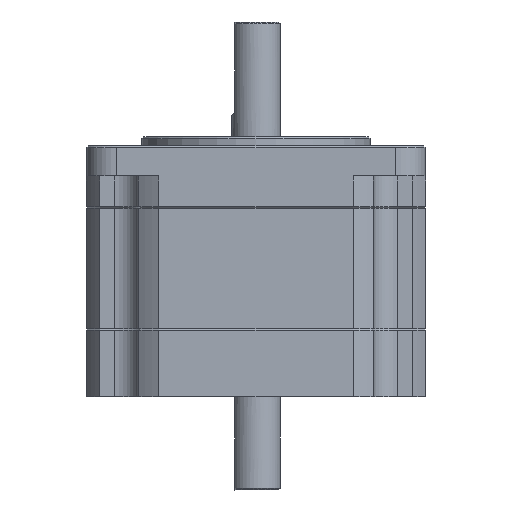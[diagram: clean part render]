
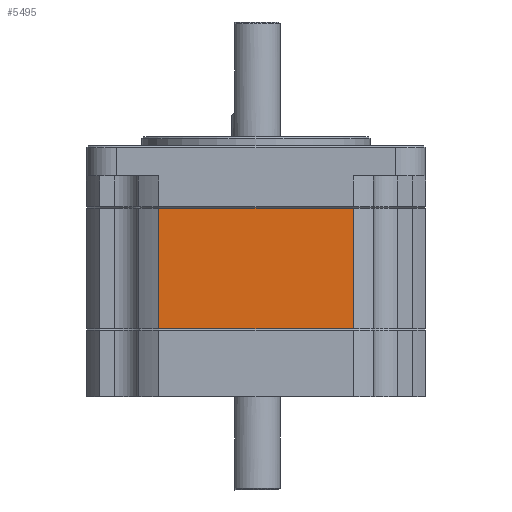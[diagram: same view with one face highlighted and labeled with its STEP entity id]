
A CAD part, front view. The second image highlights one B-rep face of the part: STEP entity #5495.
In plain terms, the highlighted planar face has unit normal (0, -1, 0).
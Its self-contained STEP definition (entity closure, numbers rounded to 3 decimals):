
#30 = DIRECTION ( 'NONE',  ( 0., 0., -1. ) ) ;
#92 = CARTESIAN_POINT ( 'NONE',  ( 0., -28.2, -20. ) ) ;
#334 = CARTESIAN_POINT ( 'NONE',  ( -16.156, -28.2, 0. ) ) ;
#627 = CARTESIAN_POINT ( 'NONE',  ( 16.156, -28.2, 0. ) ) ;
#748 = CARTESIAN_POINT ( 'NONE',  ( -16.156, -28.2, 0. ) ) ;
#1687 = CARTESIAN_POINT ( 'NONE',  ( -16.156, -28.2, -20. ) ) ;
#3635 = VERTEX_POINT ( 'NONE', #5469 ) ;
#4440 = VECTOR ( 'NONE', #7018, 1000. ) ;
#4473 = LINE ( 'NONE', #92, #10715 ) ;
#4530 = EDGE_LOOP ( 'NONE', ( #6567, #13499, #12328, #13595 ) ) ;
#4795 = VECTOR ( 'NONE', #13116, 1000. ) ;
#5469 = CARTESIAN_POINT ( 'NONE',  ( -16.156, -28.2, -20. ) ) ;
#5495 = ADVANCED_FACE ( 'NONE', ( #11212 ), #15699, .T. ) ;
#5666 = CARTESIAN_POINT ( 'NONE',  ( 16.156, -28.2, -20. ) ) ;
#6567 = ORIENTED_EDGE ( 'NONE', *, *, #8402, .T. ) ;
#7018 = DIRECTION ( 'NONE',  ( 0., 0., -1. ) ) ;
#7191 = EDGE_CURVE ( 'NONE', #16828, #3635, #17257, .T. ) ;
#8330 = AXIS2_PLACEMENT_3D ( 'NONE', #8532, #17270, #30 ) ;
#8402 = EDGE_CURVE ( 'NONE', #3635, #16522, #4473, .T. ) ;
#8532 = CARTESIAN_POINT ( 'NONE',  ( -16.156, -28.2, -20. ) ) ;
#9818 = VECTOR ( 'NONE', #17139, 1000. ) ;
#10140 = EDGE_CURVE ( 'NONE', #12291, #16828, #18436, .T. ) ;
#10715 = VECTOR ( 'NONE', #17237, 1000. ) ;
#11212 = FACE_OUTER_BOUND ( 'NONE', #4530, .T. ) ;
#12291 = VERTEX_POINT ( 'NONE', #627 ) ;
#12328 = ORIENTED_EDGE ( 'NONE', *, *, #10140, .T. ) ;
#13116 = DIRECTION ( 'NONE',  ( -1., 0., 0. ) ) ;
#13499 = ORIENTED_EDGE ( 'NONE', *, *, #18011, .F. ) ;
#13595 = ORIENTED_EDGE ( 'NONE', *, *, #7191, .T. ) ;
#14443 = CARTESIAN_POINT ( 'NONE',  ( 16.156, -28.2, -20. ) ) ;
#14700 = LINE ( 'NONE', #14443, #9818 ) ;
#15699 = PLANE ( 'NONE',  #8330 ) ;
#16522 = VERTEX_POINT ( 'NONE', #5666 ) ;
#16828 = VERTEX_POINT ( 'NONE', #748 ) ;
#17139 = DIRECTION ( 'NONE',  ( 0., 0., -1. ) ) ;
#17237 = DIRECTION ( 'NONE',  ( 1., 0., 0. ) ) ;
#17257 = LINE ( 'NONE', #1687, #4440 ) ;
#17270 = DIRECTION ( 'NONE',  ( 0., -1., 0. ) ) ;
#18011 = EDGE_CURVE ( 'NONE', #12291, #16522, #14700, .T. ) ;
#18436 = LINE ( 'NONE', #334, #4795 ) ;
